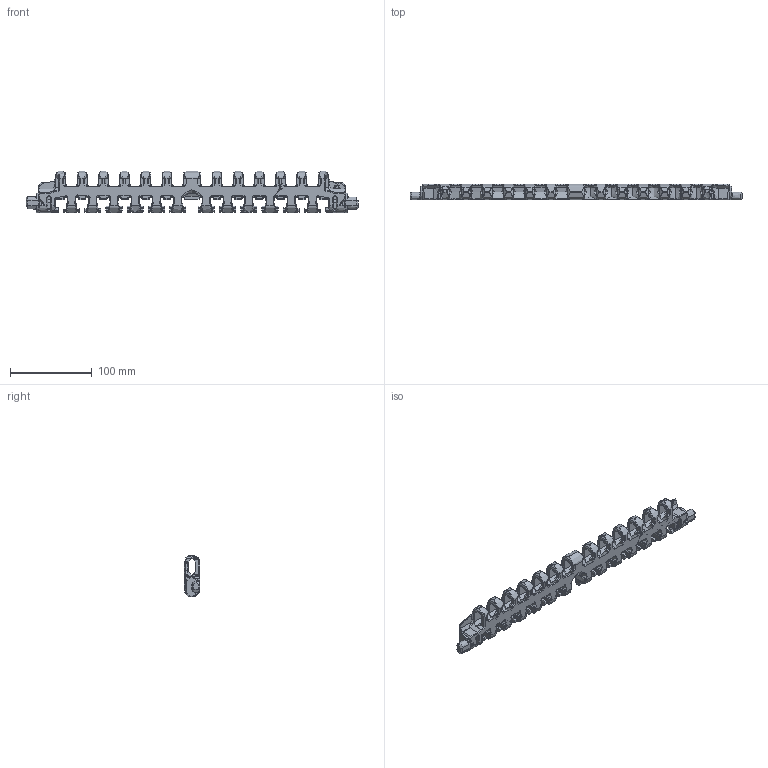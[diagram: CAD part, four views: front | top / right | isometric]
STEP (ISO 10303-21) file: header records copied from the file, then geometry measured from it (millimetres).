
FILE_DESCRIPTION (( 'STEP AP214' ), '1' );
FILE_NAME ('F2-1500-TAPIS.STEP', '2011-04-14T11:38:30', ( '.' ), ( '' ), 'SwSTEP 2.0', 'SolidWorks 2010', '' );
FILE_SCHEMA (( 'AUTOMOTIVE_DESIGN' ));
Products named in the file (1): F2-1500-TAPIS
Bounding box: 406.4 x 19.05 x 51 mm (x, y, z)
Topology: 0 solids, 9 shells, 3495 faces, 9098 edges, 5360 vertices
Faces by surface type: bspline 1642, cylinder 1396, plane 457
Entity records: 216629 total; most frequent: CARTESIAN_POINT 147221, ORIENTED_EDGE 16906, DIRECTION 10410, EDGE_CURVE 8990, VERTEX_POINT 5360, AXIS2_PLACEMENT_3D 4105, EDGE_LOOP 3510, ADVANCED_FACE 3495
